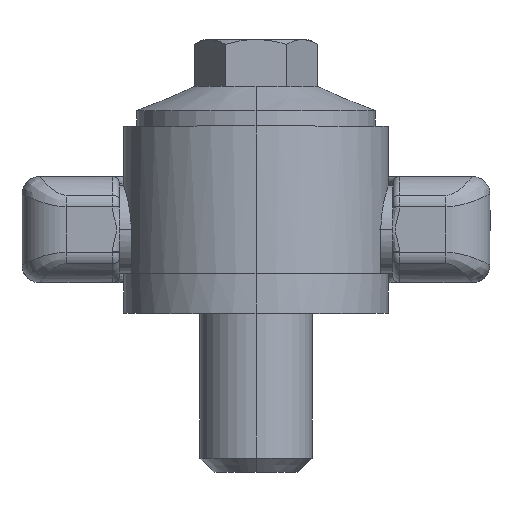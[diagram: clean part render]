
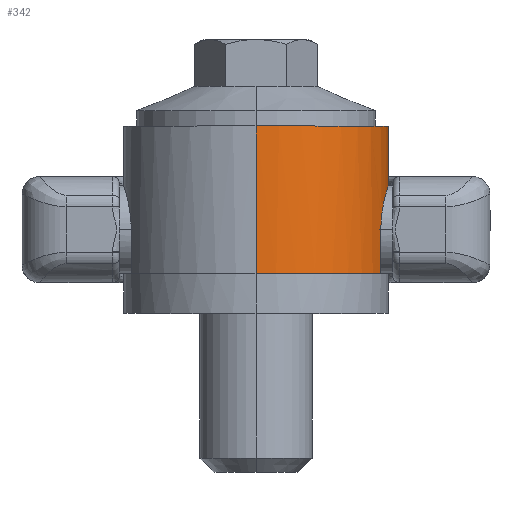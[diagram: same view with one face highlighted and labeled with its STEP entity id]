
A CAD part, top view. The second image highlights one B-rep face of the part: STEP entity #342.
In plain terms, the highlighted cylindrical face has radius 30 mm (diameter 60 mm), a partial arc.
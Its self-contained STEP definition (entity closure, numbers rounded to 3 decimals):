
#276 = VERTEX_POINT ( 'NONE', #1670 ) ;
#282 = VERTEX_POINT ( 'NONE', #1668 ) ;
#283 = ORIENTED_EDGE ( 'NONE', *, *, #7479, .F. ) ;
#286 = VERTEX_POINT ( 'NONE', #1657 ) ;
#325 = EDGE_CURVE ( 'NONE', #332, #335, #1745, .T. ) ;
#330 = EDGE_CURVE ( 'NONE', #332, #276, #1740, .T. ) ;
#332 = VERTEX_POINT ( 'NONE', #1736 ) ;
#333 = EDGE_LOOP ( 'NONE', ( #334, #336, #7403, #7530, #390, #389, #283, #7455 ) ) ;
#334 = ORIENTED_EDGE ( 'NONE', *, *, #325, .F. ) ;
#335 = VERTEX_POINT ( 'NONE', #1792 ) ;
#336 = ORIENTED_EDGE ( 'NONE', *, *, #330, .T. ) ;
#342 = ADVANCED_FACE ( 'NONE', ( #1783 ), #1782, .T. ) ;
#383 = EDGE_CURVE ( 'NONE', #385, #391, #1926, .T. ) ;
#385 = VERTEX_POINT ( 'NONE', #1927 ) ;
#386 = EDGE_CURVE ( 'NONE', #391, #286, #1952, .T. ) ;
#389 = ORIENTED_EDGE ( 'NONE', *, *, #386, .T. ) ;
#390 = ORIENTED_EDGE ( 'NONE', *, *, #383, .T. ) ;
#391 = VERTEX_POINT ( 'NONE', #1947 ) ;
#1657 = CARTESIAN_POINT ( 'NONE',  ( 28.284, 9., -10. ) ) ;
#1668 = CARTESIAN_POINT ( 'NONE',  ( 0., 9., -30. ) ) ;
#1670 = CARTESIAN_POINT ( 'NONE',  ( 0., 9., 30. ) ) ;
#1736 = CARTESIAN_POINT ( 'NONE',  ( 0., 42.4, 30. ) ) ;
#1737 = DIRECTION ( 'NONE',  ( 0., -1., 0. ) ) ;
#1738 = VECTOR ( 'NONE', #1737, 1000. ) ;
#1739 = CARTESIAN_POINT ( 'NONE',  ( 0., 62., 30. ) ) ;
#1740 = LINE ( 'NONE', #1739, #1738 ) ;
#1741 = DIRECTION ( 'NONE',  ( 0., 0., 1. ) ) ;
#1742 = DIRECTION ( 'NONE',  ( 0., 1., 0. ) ) ;
#1743 = CARTESIAN_POINT ( 'NONE',  ( 0., 42.4, 0. ) ) ;
#1744 = AXIS2_PLACEMENT_3D ( 'NONE', #1743, #1742, #1741 ) ;
#1745 = CIRCLE ( 'NONE', #1744, 30. ) ;
#1778 = DIRECTION ( 'NONE',  ( 0., 0., -1. ) ) ;
#1779 = DIRECTION ( 'NONE',  ( 0., -1., 0. ) ) ;
#1780 = CARTESIAN_POINT ( 'NONE',  ( 0., 62., 0. ) ) ;
#1781 = AXIS2_PLACEMENT_3D ( 'NONE', #1780, #1779, #1778 ) ;
#1782 = CYLINDRICAL_SURFACE ( 'NONE', #1781, 30. ) ;
#1783 = FACE_OUTER_BOUND ( 'NONE', #333, .T. ) ;
#1792 = CARTESIAN_POINT ( 'NONE',  ( 0., 42.4, -30. ) ) ;
#1891 = CARTESIAN_POINT ( 'NONE',  ( 29.267, 26.524, -6.595 ) ) ;
#1892 = CARTESIAN_POINT ( 'NONE',  ( 29.376, 26.937, -6.091 ) ) ;
#1893 = CARTESIAN_POINT ( 'NONE',  ( 29.429, 27.131, -5.83 ) ) ;
#1894 = CARTESIAN_POINT ( 'NONE',  ( 29.531, 27.492, -5.291 ) ) ;
#1895 = CARTESIAN_POINT ( 'NONE',  ( 29.58, 27.659, -5.013 ) ) ;
#1896 = CARTESIAN_POINT ( 'NONE',  ( 29.671, 27.967, -4.438 ) ) ;
#1897 = CARTESIAN_POINT ( 'NONE',  ( 29.715, 28.109, -4.14 ) ) ;
#1898 = CARTESIAN_POINT ( 'NONE',  ( 29.832, 28.488, -3.227 ) ) ;
#1899 = CARTESIAN_POINT ( 'NONE',  ( 29.894, 28.678, -2.601 ) ) ;
#1900 = CARTESIAN_POINT ( 'NONE',  ( 29.978, 28.935, -1.315 ) ) ;
#1901 = CARTESIAN_POINT ( 'NONE',  ( 30., 29.001, -0.647 ) ) ;
#1902 = CARTESIAN_POINT ( 'NONE',  ( 30., 28.999, 0.668 ) ) ;
#1903 = CARTESIAN_POINT ( 'NONE',  ( 29.978, 28.934, 1.32 ) ) ;
#1904 = CARTESIAN_POINT ( 'NONE',  ( 29.914, 28.74, 2.29 ) ) ;
#1905 = CARTESIAN_POINT ( 'NONE',  ( 29.888, 28.658, 2.613 ) ) ;
#1906 = CARTESIAN_POINT ( 'NONE',  ( 29.826, 28.466, 3.241 ) ) ;
#1907 = CARTESIAN_POINT ( 'NONE',  ( 29.791, 28.355, 3.548 ) ) ;
#1908 = CARTESIAN_POINT ( 'NONE',  ( 29.674, 27.979, 4.449 ) ) ;
#1909 = CARTESIAN_POINT ( 'NONE',  ( 29.582, 27.672, 5.023 ) ) ;
#1910 = CARTESIAN_POINT ( 'NONE',  ( 29.376, 26.94, 6.114 ) ) ;
#1911 = CARTESIAN_POINT ( 'NONE',  ( 29.266, 26.528, 6.614 ) ) ;
#1912 = CARTESIAN_POINT ( 'NONE',  ( 29.099, 25.841, 7.301 ) ) ;
#1913 = CARTESIAN_POINT ( 'NONE',  ( 29.043, 25.601, 7.519 ) ) ;
#1914 = CARTESIAN_POINT ( 'NONE',  ( 28.933, 25.097, 7.933 ) ) ;
#1915 = CARTESIAN_POINT ( 'NONE',  ( 28.878, 24.833, 8.129 ) ) ;
#1916 = CARTESIAN_POINT ( 'NONE',  ( 28.722, 24.021, 8.673 ) ) ;
#1918 = CARTESIAN_POINT ( 'NONE',  ( 28.626, 23.449, 8.98 ) ) ;
#1919 = CARTESIAN_POINT ( 'NONE',  ( 28.504, 22.543, 9.357 ) ) ;
#1920 = CARTESIAN_POINT ( 'NONE',  ( 28.466, 22.231, 9.469 ) ) ;
#1921 = CARTESIAN_POINT ( 'NONE',  ( 28.402, 21.6, 9.662 ) ) ;
#1922 = CARTESIAN_POINT ( 'NONE',  ( 28.374, 21.282, 9.742 ) ) ;
#1923 = CARTESIAN_POINT ( 'NONE',  ( 28.308, 20.319, 9.934 ) ) ;
#1924 = CARTESIAN_POINT ( 'NONE',  ( 28.284, 19.666, 10. ) ) ;
#1925 = CARTESIAN_POINT ( 'NONE',  ( 28.284, 19., 10. ) ) ;
#1926 = B_SPLINE_CURVE_WITH_KNOTS ( 'NONE', 3,
 ( #1925, #1924, #1923, #1922, #1921, #1920, #1919, #1918, #1916, #1915, #1914, #1913, #1912, #1911, #1910, #1909, #1908, #1907, #1906, #1905, #1904, #1903, #1902, #1901, #1900, #1899, #1898, #1897, #1896, #1895, #1894, #1893, #1892, #1891, #1965, #1964, #1963, #1962, #1961, #1960, #1959, #1958, #1957, #1956, #1955, #1954 ),
 .UNSPECIFIED., .F., .F.,
 ( 4, 2, 2, 2, 2, 2, 2, 2, 2, 2, 2, 2, 2, 2, 2, 2, 2, 2, 2, 2, 2, 2, 4 ),
 ( 0., 0.002, 0.003, 0.004, 0.006, 0.007, 0.008, 0.01, 0.012, 0.013, 0.014, 0.016, 0.018, 0.02, 0.021, 0.022, 0.023, 0.024, 0.026, 0.028, 0.03, 0.03, 0.031 ),
 .UNSPECIFIED. ) ;
#1927 = CARTESIAN_POINT ( 'NONE',  ( 28.284, 19., 10. ) ) ;
#1947 = CARTESIAN_POINT ( 'NONE',  ( 28.284, 19., -10. ) ) ;
#1949 = DIRECTION ( 'NONE',  ( 0., -1., 0. ) ) ;
#1950 = VECTOR ( 'NONE', #1949, 1000. ) ;
#1951 = CARTESIAN_POINT ( 'NONE',  ( 28.284, 62., -10. ) ) ;
#1952 = LINE ( 'NONE', #1951, #1950 ) ;
#1954 = CARTESIAN_POINT ( 'NONE',  ( 28.284, 19., -10. ) ) ;
#1955 = CARTESIAN_POINT ( 'NONE',  ( 28.284, 19.333, -10. ) ) ;
#1956 = CARTESIAN_POINT ( 'NONE',  ( 28.29, 19.664, -9.983 ) ) ;
#1957 = CARTESIAN_POINT ( 'NONE',  ( 28.313, 20.324, -9.917 ) ) ;
#1958 = CARTESIAN_POINT ( 'NONE',  ( 28.331, 20.654, -9.868 ) ) ;
#1959 = CARTESIAN_POINT ( 'NONE',  ( 28.398, 21.624, -9.672 ) ) ;
#1960 = CARTESIAN_POINT ( 'NONE',  ( 28.464, 22.247, -9.48 ) ) ;
#1961 = CARTESIAN_POINT ( 'NONE',  ( 28.626, 23.45, -8.979 ) ) ;
#1962 = CARTESIAN_POINT ( 'NONE',  ( 28.724, 24.034, -8.665 ) ) ;
#1963 = CARTESIAN_POINT ( 'NONE',  ( 28.933, 25.113, -7.94 ) ) ;
#1964 = CARTESIAN_POINT ( 'NONE',  ( 29.044, 25.613, -7.53 ) ) ;
#1965 = CARTESIAN_POINT ( 'NONE',  ( 29.211, 26.303, -6.839 ) ) ;
#5740 = DIRECTION ( 'NONE',  ( 0., -1., 0. ) ) ;
#5741 = CARTESIAN_POINT ( 'NONE',  ( 0., 9., 0. ) ) ;
#5742 = AXIS2_PLACEMENT_3D ( 'NONE', #5741, #5740, #5800 ) ;
#5743 = CIRCLE ( 'NONE', #5742, 30. ) ;
#5784 = CARTESIAN_POINT ( 'NONE',  ( 28.284, 9., 10. ) ) ;
#5800 = DIRECTION ( 'NONE',  ( 0., 0., -1. ) ) ;
#5950 = DIRECTION ( 'NONE',  ( 0., -1., 0. ) ) ;
#5951 = VECTOR ( 'NONE', #5950, 1000. ) ;
#5952 = CARTESIAN_POINT ( 'NONE',  ( 0., 62., -30. ) ) ;
#5953 = LINE ( 'NONE', #5952, #5951 ) ;
#5984 = DIRECTION ( 'NONE',  ( 0., 0., -1. ) ) ;
#5985 = DIRECTION ( 'NONE',  ( 0., -1., 0. ) ) ;
#5986 = CARTESIAN_POINT ( 'NONE',  ( 0., 9., 0. ) ) ;
#5987 = AXIS2_PLACEMENT_3D ( 'NONE', #5986, #5985, #5984 ) ;
#5988 = CIRCLE ( 'NONE', #5987, 30. ) ;
#6103 = DIRECTION ( 'NONE',  ( 0., 1., 0. ) ) ;
#6104 = VECTOR ( 'NONE', #6103, 1000. ) ;
#6105 = CARTESIAN_POINT ( 'NONE',  ( 28.284, 62., 10. ) ) ;
#6106 = LINE ( 'NONE', #6105, #6104 ) ;
#7403 = ORIENTED_EDGE ( 'NONE', *, *, #7410, .F. ) ;
#7407 = VERTEX_POINT ( 'NONE', #5784 ) ;
#7410 = EDGE_CURVE ( 'NONE', #7407, #276, #5743, .T. ) ;
#7455 = ORIENTED_EDGE ( 'NONE', *, *, #7469, .F. ) ;
#7469 = EDGE_CURVE ( 'NONE', #335, #282, #5953, .T. ) ;
#7479 = EDGE_CURVE ( 'NONE', #282, #286, #5988, .T. ) ;
#7529 = EDGE_CURVE ( 'NONE', #7407, #385, #6106, .T. ) ;
#7530 = ORIENTED_EDGE ( 'NONE', *, *, #7529, .T. ) ;
